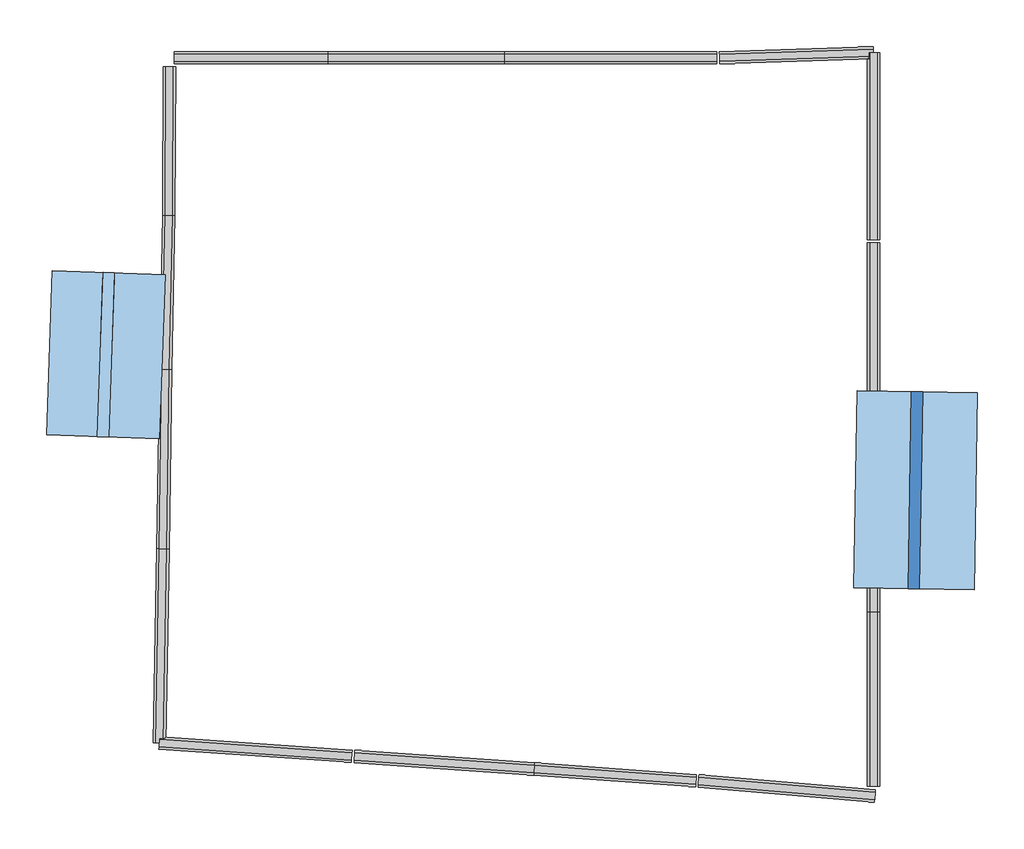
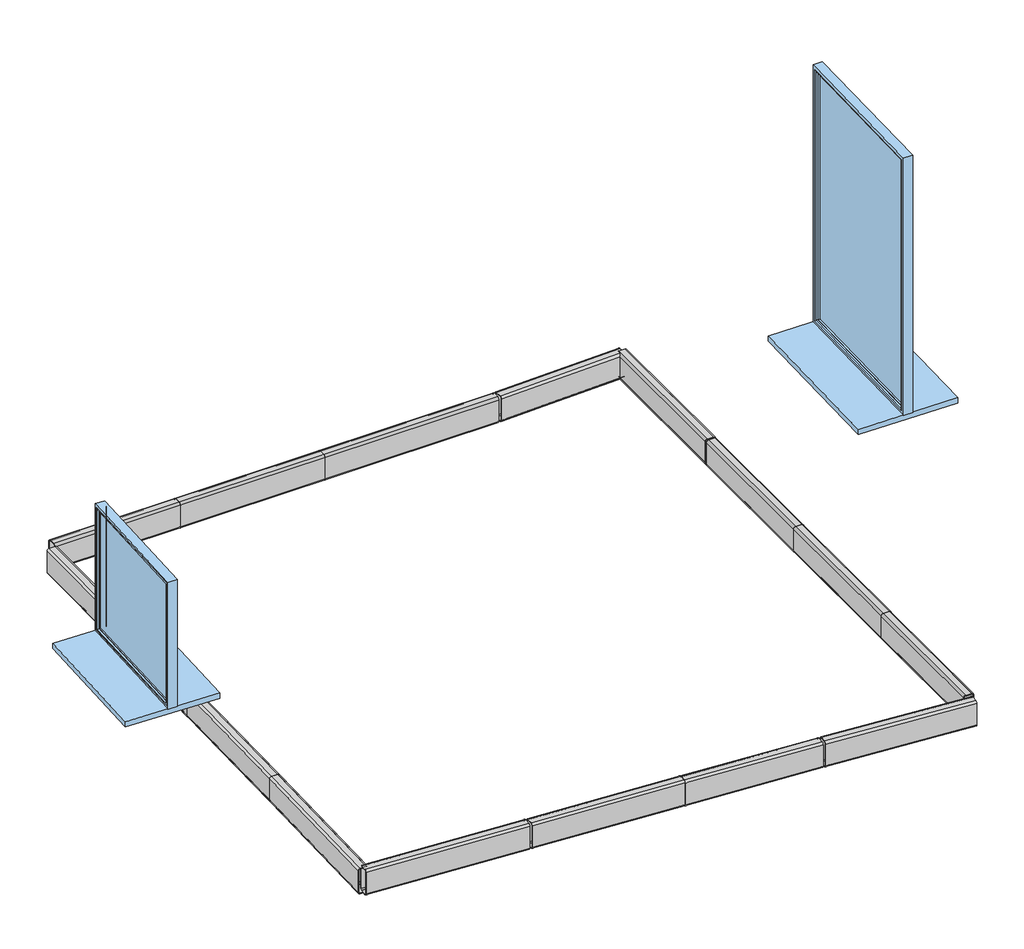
# One storey: 16 beams, 2 windows.
"""IFC4 building model written with IfcOpenShell, lengths in millimetres."""

from ifc_helpers import new_model, si_unit, origin, place, context, project, spatial, transform, mapped, element, save
from components import rectangular_and_square_hollow_sections_ed999d9d, rectangular_and_square_hollow_sections_368dba11, rectangular_and_square_hollow_sections_bb85826c, rectangular_and_square_hollow_sections_cfd01d1c, rectangular_and_square_hollow_sections_afc23af1, rectangular_and_square_hollow_sections_c3bdba6e, rectangular_and_square_hollow_sections_b3f778ed, rectangular_and_square_hollow_sections_2304ee3f, rectangular_and_square_hollow_sections_a6f610e6, rectangular_and_square_hollow_sections_3794f67f, rectangular_and_square_hollow_sections_4273bd4a, rectangular_and_square_hollow_sections_64a36e80, rectangular_and_square_hollow_sections_b76d7205, rectangular_and_square_hollow_sections_12b3b10f, rectangular_and_square_hollow_sections_436037d0, rectangular_and_square_hollow_sections_f002cd70, finestra_semplice_3rd_window_0_96x1_62_2_9ac10fb0, finestra_semplice_80_x_80_cm_494b2022

model = new_model("IFC4")

# Units and contexts
model_context = context("Model", 3, world=origin())
ifc_project = project(units=[si_unit("LENGTHUNIT", "METRE", prefix="MILLI")], contexts=[model_context])

# Site, building, storey
site = spatial("IfcSite", under=ifc_project)
building = spatial("IfcBuilding", under=site)
storey = spatial("IfcBuildingStorey", under=building, Name="Level 7 RING BEAM ST", Elevation=-2061.4517631)

# Beams
placement = place(None, origin())
rectangular_and_square_hollow_sections_shape = rectangular_and_square_hollow_sections_ed999d9d(model_context)
element("IfcBeam", 1, ObjectType="Rectangular and Square Hollow Sections : TREC160x60x6", at=placement, inside=storey, context=model_context, shape_type="MappedRepresentation", body=[
    mapped(rectangular_and_square_hollow_sections_shape, transform((-737.9655951, 1028.4949949, -2061.451763), x_axis=(-0.02025194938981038, -0.9997949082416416, 0.0), y_axis=(0.9997949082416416, -0.02025194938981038, 0.0), z_axis=(0.0, 0.0, 1.0))),
])
rectangular_and_square_hollow_sections_2_shape = rectangular_and_square_hollow_sections_368dba11(model_context)
element("IfcBeam", 2, ObjectType="Rectangular and Square Hollow Sections : TREC160x60x6", at=placement, inside=storey, context=model_context, shape_type="MappedRepresentation", body=[
    mapped(rectangular_and_square_hollow_sections_2_shape, transform((-752.0614706, 215.9251679, -2061.451763), x_axis=(-0.01484073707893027, -0.9998898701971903, 0.0), y_axis=(0.9998898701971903, -0.01484073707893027, 0.0), z_axis=(0.0, 0.0, 1.0))),
])
rectangular_and_square_hollow_sections_3_shape = rectangular_and_square_hollow_sections_bb85826c(model_context)
element("IfcBeam", 3, ObjectType="Rectangular and Square Hollow Sections : TREC160x60x6", at=placement, inside=storey, context=model_context, shape_type="MappedRepresentation", body=[
    mapped(rectangular_and_square_hollow_sections_3_shape, transform((-767.3889276, -693.2101246, -2061.451763), x_axis=(-0.018719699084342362, -0.9998247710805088, 0.0), y_axis=(0.9998247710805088, -0.018719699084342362, 0.0), z_axis=(0.0, 0.0, 1.0))),
])
rectangular_and_square_hollow_sections_4_shape = rectangular_and_square_hollow_sections_cfd01d1c(model_context)
element("IfcBeam", 4, ObjectType="Rectangular and Square Hollow Sections : TREC160x60x6", at=placement, inside=storey, context=model_context, shape_type="MappedRepresentation", body=[
    mapped(rectangular_and_square_hollow_sections_4_shape, transform((-301.3611116, -1198.8629311, -2061.451763), x_axis=(0.9975773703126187, -0.06956572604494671, 0.0), y_axis=(0.06956572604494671, 0.9975773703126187, 0.0), z_axis=(0.0, 0.0, 1.0))),
])
rectangular_and_square_hollow_sections_5_shape = rectangular_and_square_hollow_sections_afc23af1(model_context)
element("IfcBeam", 5, ObjectType="Rectangular and Square Hollow Sections : TREC160x60x6", at=placement, inside=storey, context=model_context, shape_type="MappedRepresentation", body=[
    mapped(rectangular_and_square_hollow_sections_5_shape, transform((611.4335889, -1262.2929366, -2061.451763), x_axis=(0.9976125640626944, -0.06905919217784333, 0.0), y_axis=(0.06905919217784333, 0.9976125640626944, 0.0), z_axis=(0.0, 0.0, 1.0))),
])
rectangular_and_square_hollow_sections_6_shape = rectangular_and_square_hollow_sections_c3bdba6e(model_context)
element("IfcBeam", 6, ObjectType="Rectangular and Square Hollow Sections : TREC160x60x6", at=placement, inside=storey, context=model_context, shape_type="MappedRepresentation", body=[
    mapped(rectangular_and_square_hollow_sections_6_shape, transform((2703.1285804, 822.3257729, -2061.451763), x_axis=(0.0, 1.0, 0.0), y_axis=(-1.0, 0.0, 0.0), z_axis=(0.0, 0.0, 1.0))),
])
rectangular_and_square_hollow_sections_7_shape = rectangular_and_square_hollow_sections_b3f778ed(model_context)
element("IfcBeam", 7, ObjectType="Rectangular and Square Hollow Sections : TREC160x60x6", at=placement, inside=storey, context=model_context, shape_type="MappedRepresentation", body=[
    mapped(rectangular_and_square_hollow_sections_7_shape, transform((2320.8934599, 2184.5099769, -2061.451763), x_axis=(0.9994657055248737, 0.03268491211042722, 0.0), y_axis=(-0.03268491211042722, 0.9994657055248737, 0.0), z_axis=(0.0, 0.0, 1.0))),
])
rectangular_and_square_hollow_sections_8_shape = rectangular_and_square_hollow_sections_2304ee3f(model_context)
element("IfcBeam", 8, ObjectType="Rectangular and Square Hollow Sections : TREC160x60x6", at=placement, inside=storey, context=model_context, shape_type="MappedRepresentation", body=[
    mapped(rectangular_and_square_hollow_sections_8_shape, transform((2703.1285804, 1734.0820724, -2061.451763), x_axis=(0.0, 1.0, 0.0), y_axis=(-1.0, 0.0, 0.0), z_axis=(0.0, 0.0, 1.0))),
])
rectangular_and_square_hollow_sections_9_shape = rectangular_and_square_hollow_sections_a6f610e6(model_context)
element("IfcBeam", 9, ObjectType="Rectangular and Square Hollow Sections : TREC160x60x6", at=placement, inside=storey, context=model_context, shape_type="MappedRepresentation", body=[
    mapped(rectangular_and_square_hollow_sections_9_shape, transform((-450.0082459, 2172.0099769, -2061.451763), x_axis=(-1.0, 0.0, 0.0), y_axis=(0.0, -1.0, 0.0), z_axis=(0.0, 0.0, 1.0))),
])
rectangular_and_square_hollow_sections_10_shape = rectangular_and_square_hollow_sections_3794f67f(model_context)
element("IfcBeam", 10, ObjectType="Rectangular and Square Hollow Sections : TREC160x60x6", at=placement, inside=storey, context=model_context, shape_type="MappedRepresentation", body=[
    mapped(rectangular_and_square_hollow_sections_10_shape, transform((-728.2009676, 1788.2385269, -2061.451763), x_axis=(-0.005599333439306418, -0.9999843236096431, 0.0), y_axis=(0.9999843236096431, -0.005599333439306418, 0.0), z_axis=(0.0, 0.0, 1.0))),
])
rectangular_and_square_hollow_sections_11_shape = rectangular_and_square_hollow_sections_4273bd4a(model_context)
element("IfcBeam", 11, ObjectType="Rectangular and Square Hollow Sections : TREC160x60x6", at=placement, inside=storey, context=model_context, shape_type="MappedRepresentation", body=[
    mapped(rectangular_and_square_hollow_sections_11_shape, transform((2703.1285804, -976.3932046, -2061.451763), x_axis=(0.0, 1.0, 0.0), y_axis=(-1.0, 0.0, 0.0), z_axis=(0.0, 0.0, 1.0))),
])
rectangular_and_square_hollow_sections_12_shape = rectangular_and_square_hollow_sections_64a36e80(model_context)
element("IfcBeam", 12, ObjectType="Rectangular and Square Hollow Sections : TREC160x60x6", at=placement, inside=storey, context=model_context, shape_type="MappedRepresentation", body=[
    mapped(rectangular_and_square_hollow_sections_12_shape, transform((1450.2050724, -1321.7889346, -2061.451763), x_axis=(0.9973607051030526, -0.07260594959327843, 0.0), y_axis=(0.07260594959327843, 0.9973607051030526, 0.0), z_axis=(0.0, 0.0, 1.0))),
])
rectangular_and_square_hollow_sections_13_shape = rectangular_and_square_hollow_sections_b76d7205(model_context)
element("IfcBeam", 13, ObjectType="Rectangular and Square Hollow Sections : TREC160x60x6", at=placement, inside=storey, context=model_context, shape_type="MappedRepresentation", body=[
    mapped(rectangular_and_square_hollow_sections_13_shape, transform((2399.9114683, -1397.9734268, -2061.451763), x_axis=(0.9963530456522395, -0.08532648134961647, 0.0), y_axis=(0.08532648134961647, 0.9963530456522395, 0.0), z_axis=(0.0, 0.0, 1.0))),
])
rectangular_and_square_hollow_sections_14_shape = rectangular_and_square_hollow_sections_12b3b10f(model_context)
element("IfcBeam", 14, ObjectType="Rectangular and Square Hollow Sections : TREC160x60x6", at=placement, inside=storey, context=model_context, shape_type="MappedRepresentation", body=[
    mapped(rectangular_and_square_hollow_sections_14_shape, transform((1420.8934599, 2172.0099769, -2061.451763), x_axis=(-1.0, 0.0, 0.0), y_axis=(0.0, -1.0, 0.0), z_axis=(0.0, 0.0, 1.0))),
])
rectangular_and_square_hollow_sections_15_shape = rectangular_and_square_hollow_sections_436037d0(model_context)
element("IfcBeam", 15, ObjectType="Rectangular and Square Hollow Sections : TREC160x60x6", at=placement, inside=storey, context=model_context, shape_type="MappedRepresentation", body=[
    mapped(rectangular_and_square_hollow_sections_15_shape, transform((473.1285804, 2172.0099769, -2061.451763), x_axis=(-1.0, 0.0, 0.0), y_axis=(0.0, -1.0, 0.0), z_axis=(0.0, 0.0, 1.0))),
])
rectangular_and_square_hollow_sections_16_shape = rectangular_and_square_hollow_sections_f002cd70(model_context)
element("IfcBeam", 16, ObjectType="Rectangular and Square Hollow Sections : TREC160x60x6", at=placement, inside=storey, context=model_context, shape_type="MappedRepresentation", body=[
    mapped(rectangular_and_square_hollow_sections_16_shape, transform((2703.1285804, -77.6742271, -2061.451763), x_axis=(0.0, 1.0, 0.0), y_axis=(-1.0, 0.0, 0.0), z_axis=(0.0, 0.0, 1.0))),
])

# Windows
finestra_semplice_3rd_window_0_96x1_62_2_shape = finestra_semplice_3rd_window_0_96x1_62_2_9ac10fb0(model_context)
element("IfcWindow", 17, ObjectType="Finestra Semplice : 3rd window 0.96x1.62 2", at=placement, inside=storey, context=model_context, shape_type="MappedRepresentation", body=[
    mapped(finestra_semplice_3rd_window_0_96x1_62_2_shape, transform((2914.396604, 64.4862282, -1668.5171669), x_axis=(0.017452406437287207, 0.9998476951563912, 0.0), y_axis=(-0.9998476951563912, 0.017452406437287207, 0.0), z_axis=(0.0, 0.0, 1.0))),
])
finestra_semplice_80_x_80_cm_shape = finestra_semplice_80_x_80_cm_494b2022(model_context)
element("IfcWindow", 18, ObjectType="Finestra Semplice : 80 x 80 cm", at=placement, inside=storey, context=model_context, shape_type="MappedRepresentation", body=[
    mapped(finestra_semplice_80_x_80_cm_shape, transform((-1044.1148316, 725.6909734, -2685.2545067), x_axis=(-0.03489949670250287, -0.9993908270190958, 0.0), y_axis=(0.9993908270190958, -0.03489949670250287, 0.0), z_axis=(0.0, 0.0, 1.0))),
])

save(model, "model.ifc")
